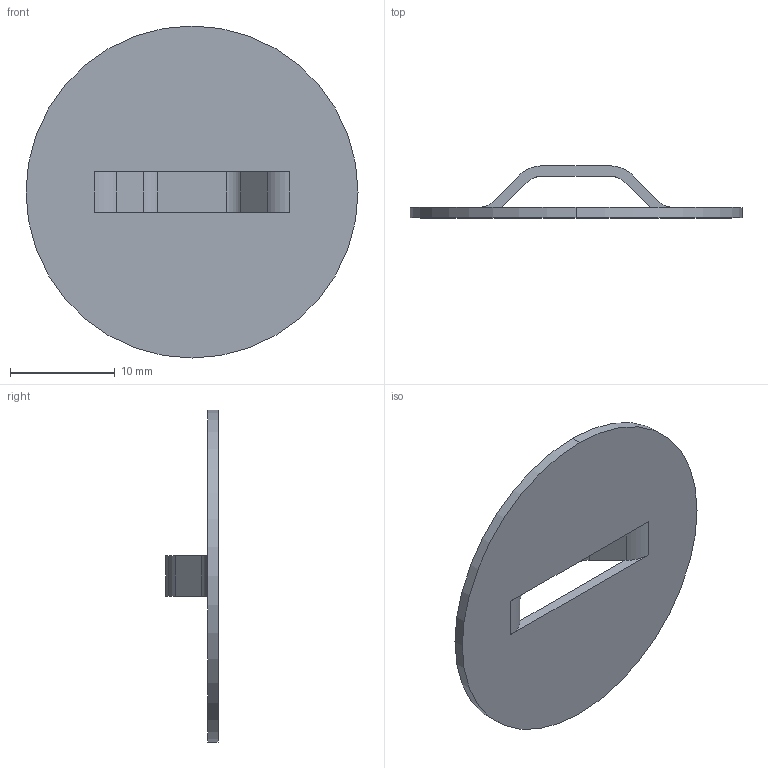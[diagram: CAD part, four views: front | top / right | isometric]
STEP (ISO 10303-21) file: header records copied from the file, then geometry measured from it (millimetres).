
FILE_DESCRIPTION (( 'STEP AP203' ), '1' );
FILE_NAME ('1635826-10 FU BRIDGELANCE .154W X .669L X .157H X .039 THK.STEP', '2024-11-18T17:17:43', ( '' ), ( '' ), 'SwSTEP 2.0', 'SolidWorks 2024', '' );
FILE_SCHEMA (( 'CONFIG_CONTROL_DESIGN' ));
Length unit declared in the file: inch
Products named in the file (1): 1635826-10 FU BRIDGELANCE .154W X .669L X .157H X .039 THK
Bounding box: 31.75 x 4.98 x 31.75 mm (x, y, z)
Volume: 795.4 mm3; surface area: 1772.1 mm2
Topology: 1 solids, 1 shells, 22 faces, 62 edges, 40 vertices
Faces by surface type: plane 12, cylinder 10
Entity records: 801 total; most frequent: DIRECTION 128, CARTESIAN_POINT 125, ORIENTED_EDGE 124, EDGE_CURVE 62, AXIS2_PLACEMENT_3D 43, VECTOR 42, LINE 42, VERTEX_POINT 40
